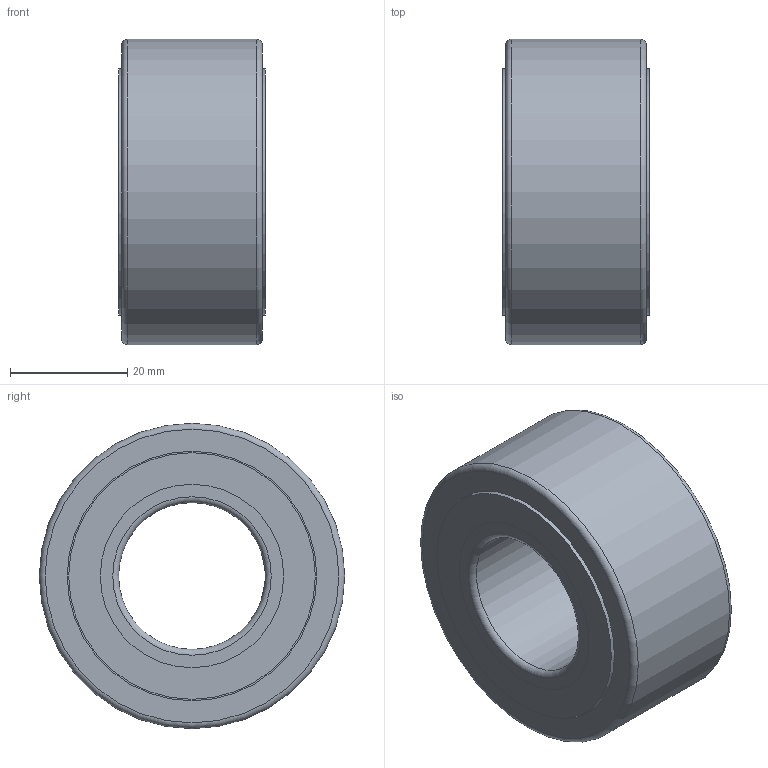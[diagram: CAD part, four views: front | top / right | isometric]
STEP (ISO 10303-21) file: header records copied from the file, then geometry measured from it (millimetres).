
FILE_DESCRIPTION(/* description */ (''),/* implementation_level */ '2;1');
FILE_NAME(/* name */ 'C:\Dokumenty D.R\Ložiská 3D\MODELY\Ihlove loziska\NATV-PP\NATV-PP--\NATV25-PP.stp',/* time_stamp */ '2018-06-05T14:36:41+02:00',/* author */ ('OUREHANEKD'),/* organization */ (''),/* preprocessor_version */ 'ST-DEVELOPER v16.13',/* originating_system */ 'Autodesk Inventor 2018',/* authorisation */ '');
FILE_SCHEMA (('AUTOMOTIVE_DESIGN { 1 0 10303 214 3 1 1 }'));
Length unit declared in the file: millimetre
Products named in the file (6): NATV25-PP; NATV25-PP-01; NATV25-PP-shield; NATV25-PP-NBR; NATV25-PP-needle; NATV25-PP-02
Assembly tree (44 placements, depth 2):
  NATV25-PP
    NATV25-PP-01
    NATV25-PP-shield
    NATV25-PP-NBR
    NATV25-PP-needle  x40
    NATV25-PP-02
Bounding box: 25 x 52 x 52 mm (x, y, z)
Volume: 37404.4 mm3; surface area: 23153.6 mm2
Topology: 46 solids, 46 shells, 161 faces, 185 edges, 122 vertices
Faces by surface type: plane 98, cylinder 59, torus 4
Full cylindrical faces by diameter (mm): 1.728 x40, 2.16 x1, 25 x1, 31.24 x4, 33.64 x1, 37.096 x1, 42 x4, 42.5 x2, 43.92 x4, 52 x1
Entity records: 1499 total; most frequent: DIRECTION 272, CARTESIAN_POINT 248, AXIS2_PLACEMENT_3D 136, EDGE_LOOP 88, ORIENTED_EDGE 88, PRODUCT_DEFINITION_SHAPE 50, ITEM_DEFINED_TRANSFORMATION 44, CONTEXT_DEPENDENT_SHAPE_REPRESENTATION 44
